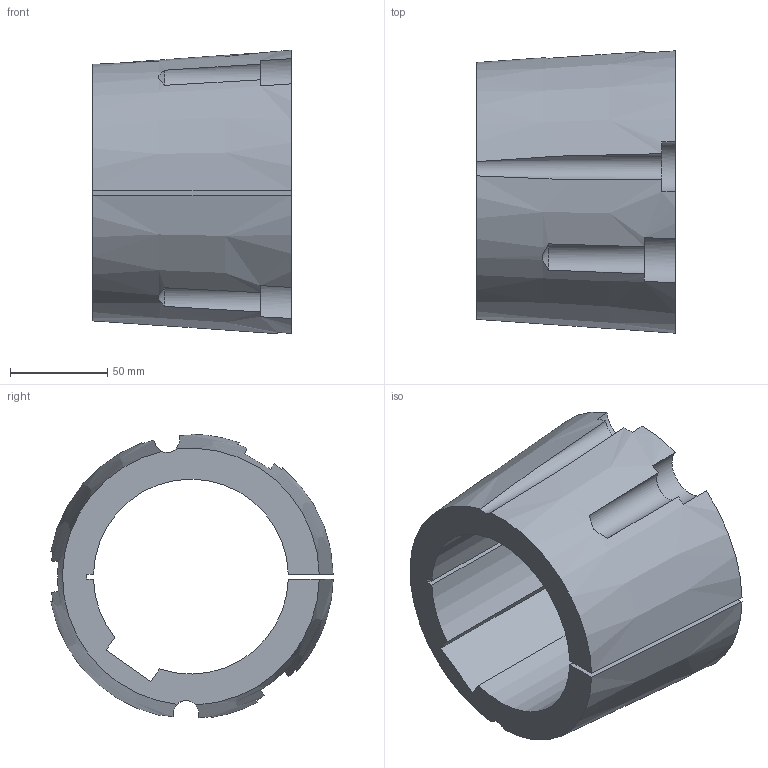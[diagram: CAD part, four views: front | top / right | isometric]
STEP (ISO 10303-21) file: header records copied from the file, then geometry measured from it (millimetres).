
FILE_DESCRIPTION( ( 'STEP AP203' ), '1' );
FILE_NAME( 'D:/export/antriebselemente/spannbuchsen_und_spannsaetze/taper-spannbuchsen_1008_bis_5050/taper-spannbuchsen_62251491Isometric_248.stp', '2018-12-11T11:11:34', ( '' ), ( '' ), ' ', 'PARTsolutions', ' ' );
FILE_SCHEMA( ( 'CONFIG_CONTROL_DESIGN' ) );
Length unit declared in the file: millimetre
Products named in the file (1): _taper-spannbuchsen_62251491
Bounding box: 102 x 144.84 x 145.4 mm (x, y, z)
Volume: 677610.9 mm3; surface area: 99115.9 mm2
Topology: 1 solids, 1 shells, 34 faces, 96 edges, 64 vertices
Faces by surface type: plane 15, cylinder 13, cone 6
Entity records: 1310 total; most frequent: CARTESIAN_POINT 386, ORIENTED_EDGE 192, DIRECTION 186, EDGE_CURVE 96, AXIS2_PLACEMENT_3D 80, VERTEX_POINT 64, CIRCLE 45, ADVANCED_FACE 34
